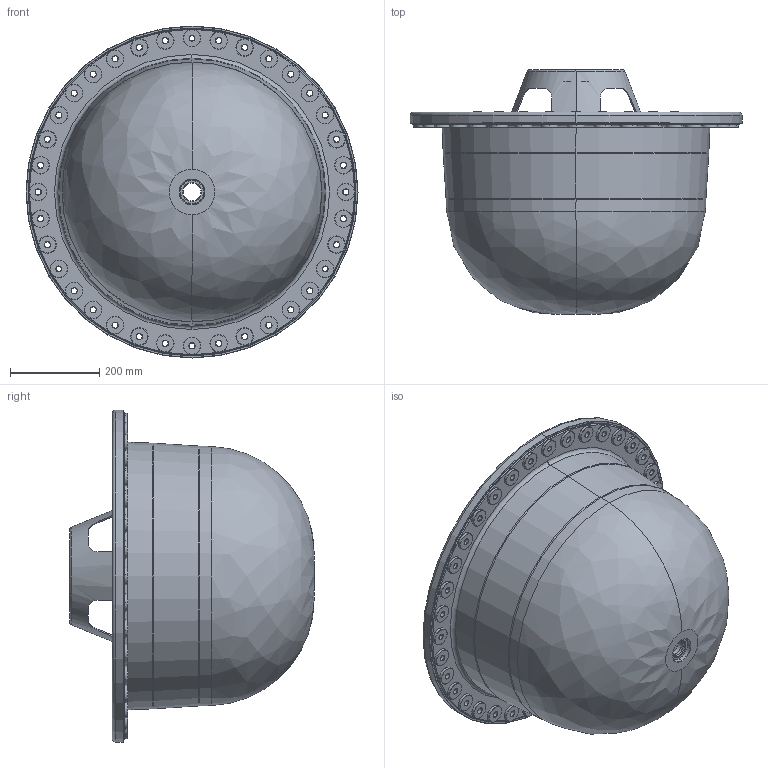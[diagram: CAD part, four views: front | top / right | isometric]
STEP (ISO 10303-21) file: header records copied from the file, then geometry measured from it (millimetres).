
FILE_DESCRIPTION(('CATIA V5 STEP Exchange','CAx-IF Rec.Pracs.--- Composite Materials ---3.4---2017-06-13'),'2;1');
FILE_NAME('C:\Users\PM610867\AppData\Local\ST-WORK_R32_PROD\Liasse-PDF\IEM_PEPSI_CEG_DEF_K_1229_231-DOME_EQUIPE-A.stp','2025-02-14T10:16:00+00:00',('none'),('none'),'CATIA Version 5-6 Release 2022 SP2','CATIA V5 STEP AP203 v2','none');
FILE_SCHEMA(('CONFIG_CONTROL_DESIGN'));
Length unit declared in the file: millimetre
Products named in the file (7): IEM PEPSI CEG DEF K 1229 231; Regroupement des BAGUE EPAULEE D16 DOME sur Répétition circulaire.1; Regroupement des IEM PEPSI CEG DEF K 1229 233 sur Répétition circulaire.2; Regroupement des Regroupement des IEM PEPSI CEG DEF K 1229 233 sur Répétition circulaire.2 sur Répétition circulaire.3; Regroupement des IEM PEPSI CEG DEF K 1229 233 sur Répétition circulaire.2_1; Regroupement des IEM PEPSI CEG DEF K 1229 233 sur Répétition circulaire.2_2; Regroupement des IEM PEPSI CEG DEF K 1229 233 sur Répétition circulaire.3
Assembly tree (46 placements, depth 4):
  IEM PEPSI CEG DEF K 1229 231
    #57
    #3352
    #4136
    #5491
    #8253
    #11330
    Regroupement des BAGUE EPAULEE D16 DOME sur Répétition circulaire.1
      #11330  x2
    Regroupement des IEM PEPSI CEG DEF K 1229 233 sur Répétition circulaire.2
      #3352  x10
    Regroupement des Regroupement des IEM PEPSI CEG DEF K 1229 233 sur Répétition circulaire.2 sur Répétition circulaire.3
      Regroupement des IEM PEPSI CEG DEF K 1229 233 sur Répétition circulaire.2_1
        #3352  x10
      Regroupement des IEM PEPSI CEG DEF K 1229 233 sur Répétition circulaire.2_2
        #3352  x10
    Regroupement des IEM PEPSI CEG DEF K 1229 233 sur Répétition circulaire.3
      #3352  x2
Bounding box: 742.6 x 546.7 x 742.6 mm (x, y, z)
Volume: 21756374.3 mm3; surface area: 3470005.8 mm2
Topology: 40 solids, 40 shells, 1572 faces, 3354 edges, 1940 vertices
Faces by surface type: torus 788, cylinder 506, plane 174, cone 98, revolution 6
Entity records: 12613 total; most frequent: CARTESIAN_POINT 2588, ORIENTED_EDGE 2084, DIRECTION 1641, EDGE_CURVE 1042, AXIS2_PLACEMENT_3D 1036, CIRCLE 714, VERTEX_POINT 648, EDGE_LOOP 624
